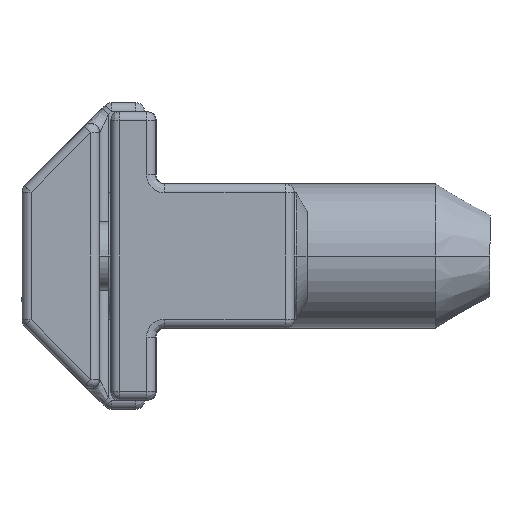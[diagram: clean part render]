
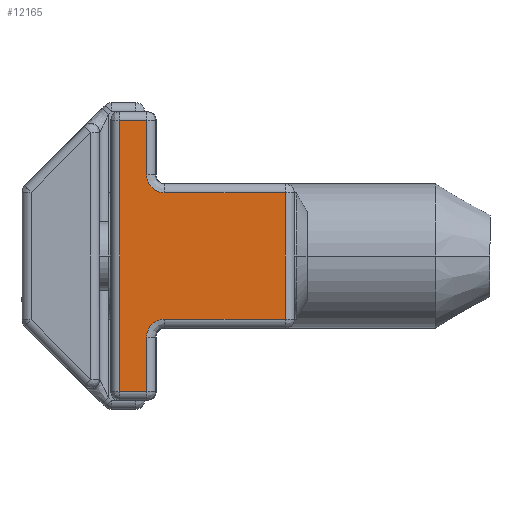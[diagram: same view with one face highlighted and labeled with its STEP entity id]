
A CAD part, front view. The second image highlights one B-rep face of the part: STEP entity #12165.
In plain terms, the highlighted planar face has unit normal (0, -1, 0).
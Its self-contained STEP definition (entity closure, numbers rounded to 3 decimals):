
#496 = DIRECTION ( 'NONE',  ( 0., 0., 1. ) ) ;
#554 = PLANE ( 'NONE',  #11206 ) ;
#786 = DIRECTION ( 'NONE',  ( 1., 0., 0. ) ) ;
#1329 = DIRECTION ( 'NONE',  ( 0., 0., -1. ) ) ;
#1929 = VERTEX_POINT ( 'NONE', #13584 ) ;
#2204 = VERTEX_POINT ( 'NONE', #4286 ) ;
#2237 = LINE ( 'NONE', #6112, #5216 ) ;
#2569 = ORIENTED_EDGE ( 'NONE', *, *, #4119, .F. ) ;
#2593 = ORIENTED_EDGE ( 'NONE', *, *, #3345, .F. ) ;
#2688 = CARTESIAN_POINT ( 'NONE',  ( -2.447, -19.5, 7.054 ) ) ;
#2888 = CARTESIAN_POINT ( 'NONE',  ( -0.523, -19.5, 2.554 ) ) ;
#2892 = LINE ( 'NONE', #11164, #11372 ) ;
#3160 = ORIENTED_EDGE ( 'NONE', *, *, #5512, .F. ) ;
#3345 = EDGE_CURVE ( 'NONE', #8831, #10273, #11978, .T. ) ;
#3368 = DIRECTION ( 'NONE',  ( 1., 0., 0. ) ) ;
#3544 = EDGE_CURVE ( 'NONE', #10273, #6496, #2892, .T. ) ;
#3631 = EDGE_CURVE ( 'NONE', #3817, #10552, #12916, .T. ) ;
#3739 = EDGE_CURVE ( 'NONE', #10552, #2204, #12441, .T. ) ;
#3817 = VERTEX_POINT ( 'NONE', #7213 ) ;
#3941 = EDGE_CURVE ( 'NONE', #2204, #4100, #7039, .T. ) ;
#4025 = EDGE_CURVE ( 'NONE', #1929, #8831, #11193, .T. ) ;
#4057 = DIRECTION ( 'NONE',  ( -1., 0., 0. ) ) ;
#4100 = VERTEX_POINT ( 'NONE', #8787 ) ;
#4119 = EDGE_CURVE ( 'NONE', #7788, #3817, #14313, .T. ) ;
#4286 = CARTESIAN_POINT ( 'NONE',  ( -1.447, -19.5, 6.054 ) ) ;
#4715 = CARTESIAN_POINT ( 'NONE',  ( -2.447, -19.5, 2.554 ) ) ;
#4859 = ORIENTED_EDGE ( 'NONE', *, *, #3941, .F. ) ;
#4927 = ORIENTED_EDGE ( 'NONE', *, *, #6328, .F. ) ;
#4954 = CARTESIAN_POINT ( 'NONE',  ( -1.447, -19.5, 6.054 ) ) ;
#5187 = CARTESIAN_POINT ( 'NONE',  ( -0.523, -19.5, -4.946 ) ) ;
#5216 = VECTOR ( 'NONE', #496, 1000. ) ;
#5303 = CARTESIAN_POINT ( 'NONE',  ( -1.447, -19.5, -0.946 ) ) ;
#5343 = VECTOR ( 'NONE', #13109, 1000. ) ;
#5420 = CARTESIAN_POINT ( 'NONE',  ( -0.523, -19.5, -0.946 ) ) ;
#5512 = EDGE_CURVE ( 'NONE', #6496, #7096, #8378, .T. ) ;
#6022 = FACE_OUTER_BOUND ( 'NONE', #6223, .T. ) ;
#6112 = CARTESIAN_POINT ( 'NONE',  ( -3.947, -19.5, 6.554 ) ) ;
#6223 = EDGE_LOOP ( 'NONE', ( #4927, #4859, #12451, #9076, #2569, #13249, #3160, #14340, #2593, #6593 ) ) ;
#6328 = EDGE_CURVE ( 'NONE', #4100, #1929, #12100, .T. ) ;
#6397 = CARTESIAN_POINT ( 'NONE',  ( -2.447, -19.5, -1.946 ) ) ;
#6496 = VERTEX_POINT ( 'NONE', #12699 ) ;
#6507 = EDGE_CURVE ( 'NONE', #7096, #7788, #2237, .T. ) ;
#6593 = ORIENTED_EDGE ( 'NONE', *, *, #4025, .F. ) ;
#7039 = LINE ( 'NONE', #14085, #12568 ) ;
#7096 = VERTEX_POINT ( 'NONE', #10268 ) ;
#7213 = CARTESIAN_POINT ( 'NONE',  ( -2.447, -19.5, 10.054 ) ) ;
#7788 = VERTEX_POINT ( 'NONE', #8321 ) ;
#7824 = CARTESIAN_POINT ( 'NONE',  ( 5.253, -19.5, 2.554 ) ) ;
#8196 = CARTESIAN_POINT ( 'NONE',  ( -2.447, -19.5, -1.946 ) ) ;
#8293 = CARTESIAN_POINT ( 'NONE',  ( -1.447, -19.5, -0.946 ) ) ;
#8321 = CARTESIAN_POINT ( 'NONE',  ( -3.947, -19.5, 10.054 ) ) ;
#8378 = LINE ( 'NONE', #5187, #14252 ) ;
#8712 = CARTESIAN_POINT ( 'NONE',  ( -2.447, -19.5, 7.054 ) ) ;
#8787 = CARTESIAN_POINT ( 'NONE',  ( 5.253, -19.5, 6.054 ) ) ;
#8831 = VERTEX_POINT ( 'NONE', #8293 ) ;
#9076 = ORIENTED_EDGE ( 'NONE', *, *, #3631, .F. ) ;
#9208 = VECTOR ( 'NONE', #14436, 1000. ) ;
#9337 = CARTESIAN_POINT ( 'NONE',  ( -2.447, -19.5, 6.468 ) ) ;
#9987 = CARTESIAN_POINT ( 'NONE',  ( -0.523, -19.5, 10.054 ) ) ;
#10008 = VECTOR ( 'NONE', #1329, 1000. ) ;
#10055 = DIRECTION ( 'NONE',  ( 0., 0., -1. ) ) ;
#10268 = CARTESIAN_POINT ( 'NONE',  ( -3.947, -19.5, -4.946 ) ) ;
#10273 = VERTEX_POINT ( 'NONE', #8196 ) ;
#10552 = VERTEX_POINT ( 'NONE', #8712 ) ;
#10630 = DIRECTION ( 'NONE',  ( 0., 1., 0. ) ) ;
#11164 = CARTESIAN_POINT ( 'NONE',  ( -2.447, -19.5, 2.554 ) ) ;
#11193 = LINE ( 'NONE', #5420, #5343 ) ;
#11206 = AXIS2_PLACEMENT_3D ( 'NONE', #2888, #10630, #4057 ) ;
#11372 = VECTOR ( 'NONE', #10055, 1000. ) ;
#11509 = CARTESIAN_POINT ( 'NONE',  ( -2.033, -19.5, 6.054 ) ) ;
#11648 = DIRECTION ( 'NONE',  ( -1., 0., 0. ) ) ;
#11846 = CARTESIAN_POINT ( 'NONE',  ( -2.033, -19.5, -0.946 ) ) ;
#11978 =( BOUNDED_CURVE ( )  B_SPLINE_CURVE ( 3, ( #5303, #11846, #12979, #6397 ),
 .UNSPECIFIED., .F., .F. ) 
 B_SPLINE_CURVE_WITH_KNOTS ( ( 4, 4 ),
 ( 0., 1. ),
 .UNSPECIFIED. ) 
 CURVE ( )  GEOMETRIC_REPRESENTATION_ITEM ( )  RATIONAL_B_SPLINE_CURVE ( ( 1., 0.805, 0.805, 1. ) ) 
 REPRESENTATION_ITEM ( '' )  );
#12100 = LINE ( 'NONE', #7824, #9208 ) ;
#12165 = ADVANCED_FACE ( 'NONE', ( #6022 ), #554, .F. ) ;
#12391 = VECTOR ( 'NONE', #3368, 1000. ) ;
#12441 =( BOUNDED_CURVE ( )  B_SPLINE_CURVE ( 3, ( #2688, #9337, #11509, #4954 ),
 .UNSPECIFIED., .F., .T. ) 
 B_SPLINE_CURVE_WITH_KNOTS ( ( 4, 4 ),
 ( 0., 1. ),
 .UNSPECIFIED. ) 
 CURVE ( )  GEOMETRIC_REPRESENTATION_ITEM ( )  RATIONAL_B_SPLINE_CURVE ( ( 1., 0.805, 0.805, 1. ) ) 
 REPRESENTATION_ITEM ( '' )  );
#12451 = ORIENTED_EDGE ( 'NONE', *, *, #3739, .F. ) ;
#12568 = VECTOR ( 'NONE', #786, 1000. ) ;
#12699 = CARTESIAN_POINT ( 'NONE',  ( -2.447, -19.5, -4.946 ) ) ;
#12916 = LINE ( 'NONE', #4715, #10008 ) ;
#12979 = CARTESIAN_POINT ( 'NONE',  ( -2.447, -19.5, -1.36 ) ) ;
#13109 = DIRECTION ( 'NONE',  ( -1., 0., 0. ) ) ;
#13249 = ORIENTED_EDGE ( 'NONE', *, *, #6507, .F. ) ;
#13584 = CARTESIAN_POINT ( 'NONE',  ( 5.253, -19.5, -0.946 ) ) ;
#14085 = CARTESIAN_POINT ( 'NONE',  ( -0.523, -19.5, 6.054 ) ) ;
#14252 = VECTOR ( 'NONE', #11648, 1000. ) ;
#14313 = LINE ( 'NONE', #9987, #12391 ) ;
#14340 = ORIENTED_EDGE ( 'NONE', *, *, #3544, .F. ) ;
#14436 = DIRECTION ( 'NONE',  ( 0., 0., -1. ) ) ;
